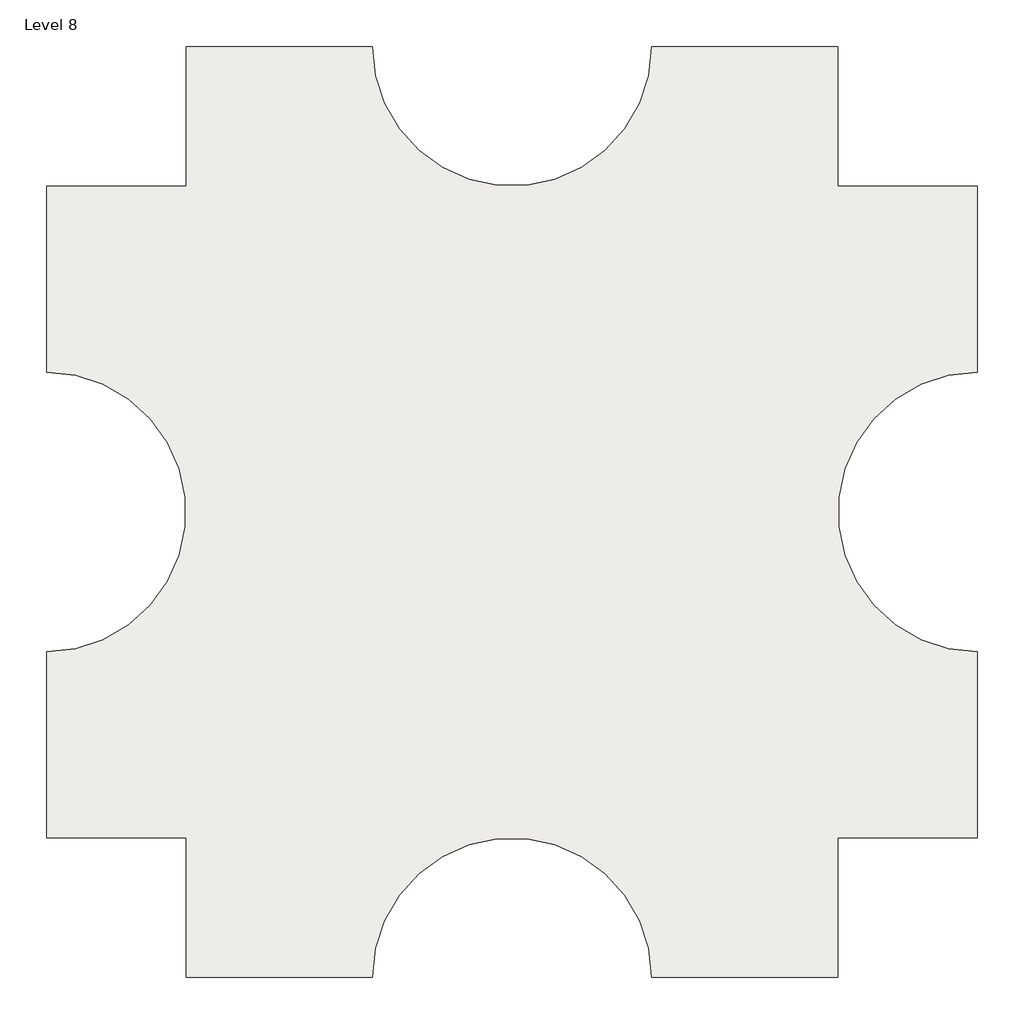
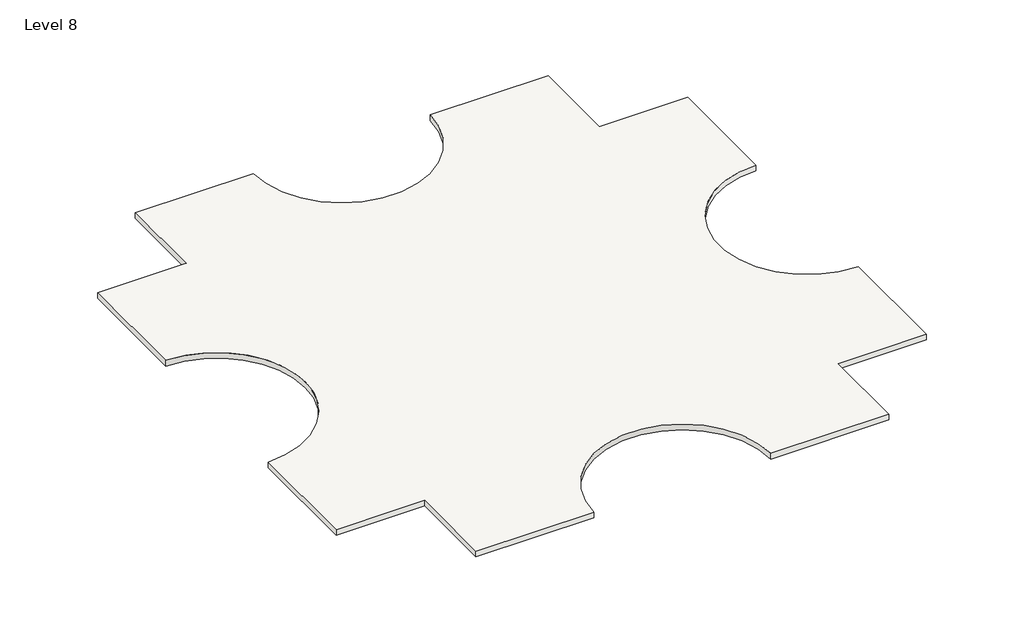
# One storey: 1 slab.
"""IFC4 building model written with IfcOpenShell, lengths in millimetres."""

import ifcopenshell
import ifcopenshell.guid

model = None  # the IFC model being written
_history = None  # IfcOwnerHistory: only IFC2X3 demands one
_inside = {}  # id of a spatial element -> (the spatial element, [elements in it])
_under = {}  # id of a project, library or spatial element -> (it, [spatial elements below it])
_declared = {}  # id of a project -> (the project, [libraries it declares])
_typed = {}  # id of a type object -> (the type object, [elements of that type])
_made_of = {}  # id of a material, layer set ... -> (it, [elements and type objects made of it])


def new_model(schema):
    """Start an empty IFC model of exactly this schema.

    Asked for "IFC4X3", IfcOpenShell would pick the latest addendum, in which some entities
    have other attributes; the version numbers below select the first issue.
    IFC2X3 requires an IfcOwnerHistory on every rooted entity: one is made here for all.
    """
    global model, _history
    if schema == "IFC4X3":
        model = ifcopenshell.file(schema_version=(4, 3, 0, 0))
    else:
        model = ifcopenshell.file(schema=schema)
    _inside.clear()
    _under.clear()
    _declared.clear()
    _typed.clear()
    _made_of.clear()
    _history = None
    if model.schema == "IFC2X3":
        org = make("IfcOrganization", Name="unknown")
        user = make(
            "IfcPersonAndOrganization",
            ThePerson=make("IfcPerson", FamilyName="unknown"),
            TheOrganization=org,
        )
        app = make(
            "IfcApplication",
            ApplicationDeveloper=org,
            Version="unknown",
            ApplicationFullName="unknown",
            ApplicationIdentifier="unknown",
        )
        _history = make(
            "IfcOwnerHistory",
            OwningUser=user,
            OwningApplication=app,
            ChangeAction="ADDED",
            CreationDate=0,
        )
    return model


def make(cls, **values):
    """One entity of the class cls with the attributes given. An attribute that is None is left unset."""
    return model.create_entity(
        cls, **{name: value for name, value in values.items() if value is not None}
    )


def rooted(cls, **values):
    """An entity with a GlobalId (a new one), such as an element, a storey or a relation."""
    return make(cls, GlobalId=ifcopenshell.guid.new(), OwnerHistory=_history, **values)


def si_unit(unit_type, name, prefix=None):
    """IfcSIUnit, for example si_unit("LENGTHUNIT", "METRE", prefix="MILLI")."""
    return make("IfcSIUnit", UnitType=unit_type, Prefix=prefix, Name=name)


def assignment(units):
    """IfcUnitAssignment: the units of a project."""
    return None if units is None else make("IfcUnitAssignment", Units=units)


def point(xyz):
    """IfcCartesianPoint."""
    return None if xyz is None else make("IfcCartesianPoint", Coordinates=xyz)


def direction(xyz):
    """IfcDirection."""
    return None if xyz is None else make("IfcDirection", DirectionRatios=xyz)


def frame(location, z_axis=None, x_axis=None):
    """IfcAxis2Placement3D, a coordinate frame: its origin and axes. An axis left out is left unset."""
    return make(
        "IfcAxis2Placement3D",
        Location=point(location),
        Axis=direction(z_axis),
        RefDirection=direction(x_axis),
    )


def frame_2d(location, x_axis=None):
    """IfcAxis2Placement2D, a coordinate frame in the plane: its origin and x axis."""
    return make(
        "IfcAxis2Placement2D", Location=point(location), RefDirection=direction(x_axis)
    )


def origin():
    """The frame at (0, 0, 0) with its axes left unset."""
    return frame((0.0, 0.0, 0.0))


def place(relative_to, where):
    """IfcLocalPlacement: puts the frame where relative to a parent placement (None: the world)."""
    return make(
        "IfcLocalPlacement", PlacementRelTo=relative_to, RelativePlacement=where
    )


def context(
    kind, dimensions, precision=None, world=None, true_north=None, identifier=None
):
    """IfcGeometricRepresentationContext, for example the 3D "Model" context."""
    return make(
        "IfcGeometricRepresentationContext",
        ContextIdentifier=identifier,
        ContextType=kind,
        CoordinateSpaceDimension=dimensions,
        Precision=precision,
        WorldCoordinateSystem=world,
        TrueNorth=true_north,
    )


def project(units=None, contexts=None):
    """IfcProject with its units and contexts."""
    return rooted(
        "IfcProject",
        Name="project",
        RepresentationContexts=contexts,
        UnitsInContext=assignment(units),
    )


def spatial(cls, under=None, at=None, **own):
    """A site, building, storey or space (cls), placed at a placement, below another one or the project."""
    s = rooted(cls, ObjectPlacement=at, **own)
    if under is not None:
        _under.setdefault(under.id(), (under, []))[1].append(s)
    return s


def polyline(points):
    """IfcPolyline through the points."""
    return make("IfcPolyline", Points=[point(p) for p in points])


def circle_curve(where, radius):
    """IfcCircle in the frame where."""
    return make("IfcCircle", Position=where, Radius=radius)


def trimmed(basis, trim1, trim2, sense, master):
    """IfcTrimmedCurve: the piece of a basis curve between two trims."""
    return make(
        "IfcTrimmedCurve",
        BasisCurve=basis,
        Trim1=trim1,
        Trim2=trim2,
        SenseAgreement=sense,
        MasterRepresentation=master,
    )


def segment(curve, same_sense, transition):
    """IfcCompositeCurveSegment."""
    return make(
        "IfcCompositeCurveSegment",
        Transition=transition,
        SameSense=same_sense,
        ParentCurve=curve,
    )


def composite_curve(segments, self_intersect=None):
    """IfcCompositeCurve: segments joined end to end."""
    return make("IfcCompositeCurve", Segments=segments, SelfIntersect=self_intersect)


def outline(outer, holes=None, kind="AREA"):
    """IfcArbitraryClosedProfileDef: a profile drawn as a closed curve; with holes, ...WithVoids."""
    if holes is None:
        return make("IfcArbitraryClosedProfileDef", ProfileType=kind, OuterCurve=outer)
    return make(
        "IfcArbitraryProfileDefWithVoids",
        ProfileType=kind,
        OuterCurve=outer,
        InnerCurves=holes,
    )


def extrude(swept, where, along, depth):
    """IfcExtrudedAreaSolid: the profile swept, set in the frame where, extruded along a direction by depth."""
    return make(
        "IfcExtrudedAreaSolid",
        SweptArea=swept,
        Position=where,
        ExtrudedDirection=direction(along),
        Depth=depth,
    )


def shape(context_of_items, identifier, shape_type, items):
    """IfcShapeRepresentation: the items that make up one representation, for example the "Body"."""
    return make(
        "IfcShapeRepresentation",
        ContextOfItems=context_of_items,
        RepresentationIdentifier=identifier,
        RepresentationType=shape_type,
        Items=items,
    )


def made_of(thing, what):
    """Note that an element or type object is made of a material, layer set ...; save() writes the relation."""
    if what is not None:
        _made_of.setdefault(what.id(), (what, []))[1].append(thing)
    return thing


def element(
    cls,
    number,
    at=None,
    inside=None,
    cuts=None,
    type_object=None,
    material=None,
    context=None,
    identifier="Body",
    shape_type=None,
    held_by="IfcProductDefinitionShape",
    body=None,
    shapes=None,
    **own,
):
    """One element of the class cls, such as IfcWall. Its Tag is "e" and its number.

    at: its placement. inside: the storey or other place that contains it. cuts: it is an
    opening in that element (IfcRelVoidsElement). A single representation is given by context,
    identifier, shape_type and body (its items); several are given by shapes. held_by: the class
    of the entity that holds the representations. save() writes the other relations.
    """
    e = rooted(cls, Tag="e%d" % number, ObjectPlacement=at, **own)
    if body is not None:
        shapes = [shape(context, identifier, shape_type, body)]
    if shapes is not None:
        e.Representation = make(held_by, Representations=shapes)
    if inside is not None:
        _inside.setdefault(inside.id(), (inside, []))[1].append(e)
    if cuts is not None:
        rooted(
            "IfcRelVoidsElement", RelatingBuildingElement=cuts, RelatedOpeningElement=e
        )
    if type_object is not None:
        _typed.setdefault(type_object.id(), (type_object, []))[1].append(e)
    return made_of(e, material)


def aggregate(whole, parts):
    """IfcRelAggregates: a whole, such as a stair, and the parts it consists of."""
    return rooted("IfcRelAggregates", RelatingObject=whole, RelatedObjects=parts)


def save(model, path):
    """Write the relations noted so far, then the file.

    IfcRelAggregates (storeys below a building ...), IfcRelContainedInSpatialStructure (elements
    in a storey), IfcRelDefinesByType, IfcRelAssociatesMaterial and IfcRelDeclares: one each for
    every whole, place, type object, material and project.
    """
    for whole, parts in _under.values():
        aggregate(whole, parts)
    for where, things in _inside.values():
        rooted(
            "IfcRelContainedInSpatialStructure",
            RelatedElements=things,
            RelatingStructure=where,
        )
    for kind, things in _typed.values():
        rooted("IfcRelDefinesByType", RelatedObjects=things, RelatingType=kind)
    for what, things in _made_of.values():
        rooted("IfcRelAssociatesMaterial", RelatedObjects=things, RelatingMaterial=what)
    for by, libraries in _declared.values():
        rooted("IfcRelDeclares", RelatingContext=by, RelatedDefinitions=libraries)
    model.write(path)


model = new_model("IFC4")

# Units and contexts
model_context = context("Model", 3, world=origin())
ifc_project = project(units=[si_unit("LENGTHUNIT", "METRE", prefix="MILLI")], contexts=[model_context])

# Site, building, storey
site = spatial("IfcSite", under=ifc_project)
building = spatial("IfcBuilding", under=site)
storey = spatial("IfcBuildingStorey", under=building, Name="Level 8", Elevation=21336.0)

# Slab
placement = place(None, origin())
element("IfcSlab", 1, ObjectType="Generic - 12\"", at=placement, inside=storey, context=model_context, shape_type="SweptSolid", body=[
    extrude(outline(composite_curve([segment(polyline([(-7150.3629456, 4479.6634547), (-7150.3629456, 9051.6634547), (-1054.3629456, 9051.6634547)]), True, "CONTINUOUS"), segment(trimmed(circle_curve(frame_2d((3517.6370544, 9051.6634547)), 4572.0), [point((-1054.3629456, 9051.6634547))], [point((8089.6370544, 9051.6634547))], True, "CARTESIAN"), True, "CONTINUOUS"), segment(polyline([(8089.6370544, 9051.6634547), (14185.6370544, 9051.6634547), (14185.6370544, 4479.6634547), (18757.6370544, 4479.6634547), (18757.6370544, -1616.3365453)]), True, "CONTINUOUS"), segment(trimmed(circle_curve(frame_2d((18757.6370544, -6188.3365453)), 4572.0), [point((18757.6370544, -1616.3365453))], [point((18757.6370544, -10760.3365453))], True, "CARTESIAN"), True, "CONTINUOUS"), segment(polyline([(18757.6370544, -10760.3365453), (18757.6370544, -16856.3365453), (14185.6370544, -16856.3365453), (14185.6370544, -21428.3365453), (8089.6370544, -21428.3365453)]), True, "CONTINUOUS"), segment(trimmed(circle_curve(frame_2d((3517.6370544, -21428.3365453)), 4572.0), [point((8089.6370544, -21428.3365453))], [point((-1054.3629456, -21428.3365453))], True, "CARTESIAN"), True, "CONTINUOUS"), segment(polyline([(-1054.3629456, -21428.3365453), (-7150.3629456, -21428.3365453), (-7150.3629456, -16856.3365453), (-11722.3629456, -16856.3365453), (-11722.3629456, -10760.3365453)]), True, "CONTINUOUS"), segment(trimmed(circle_curve(frame_2d((-11722.3629456, -6188.3365453)), 4572.0), [point((-11722.3629456, -10760.3365453))], [point((-11722.3629456, -1616.3365453))], True, "CARTESIAN"), True, "CONTINUOUS"), segment(polyline([(-11722.3629456, -1616.3365453), (-11722.3629456, 4479.6634547), (-7150.3629456, 4479.6634547)]), True, "CONTINUOUS")], self_intersect=False)), frame((0.0, 0.0, 21031.2), z_axis=(0.0, 0.0, 1.0), x_axis=(1.0, 0.0, 0.0)), (0.0, 0.0, 1.0), 304.8),
])

save(model, "model.ifc")
